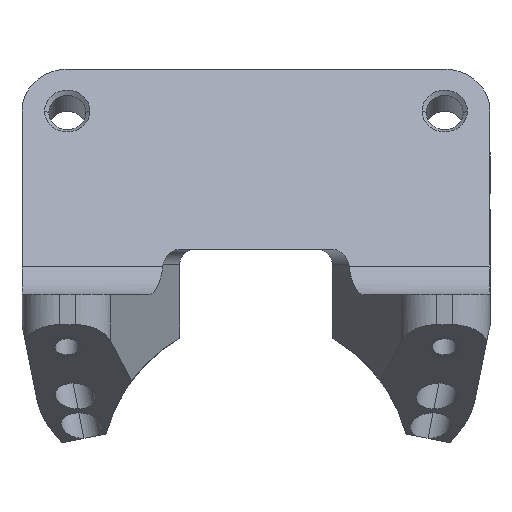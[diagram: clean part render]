
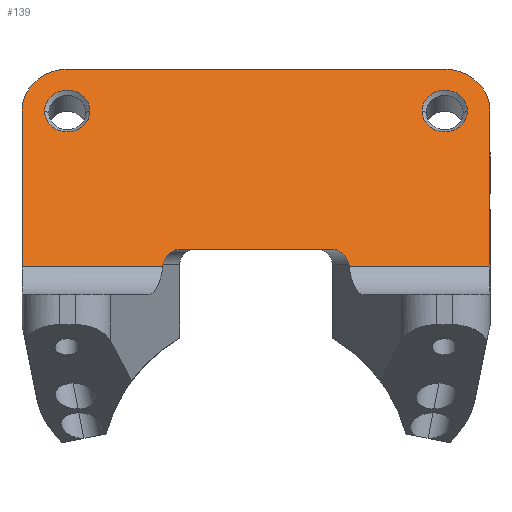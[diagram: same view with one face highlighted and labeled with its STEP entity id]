
A CAD part, top view. The second image highlights one B-rep face of the part: STEP entity #139.
In plain terms, the highlighted planar face has unit normal (0, 0.383, 0.924).
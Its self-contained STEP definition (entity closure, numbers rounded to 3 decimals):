
#61=FACE_BOUND('',#311,.F.);
#62=FACE_BOUND('',#312,.F.);
#139=ADVANCED_FACE('',(#61,#62,#224),#834,.T.);
#224=FACE_OUTER_BOUND('',#313,.F.);
#311=EDGE_LOOP('',(#515,#516));
#312=EDGE_LOOP('',(#517,#518));
#313=EDGE_LOOP('',(#519,#520,#521,#522,#523,#524,#525,#526,#527,#528,#529,
#530));
#515=ORIENTED_EDGE('',*,*,#1150,.T.);
#516=ORIENTED_EDGE('',*,*,#1151,.T.);
#517=ORIENTED_EDGE('',*,*,#1154,.T.);
#518=ORIENTED_EDGE('',*,*,#1155,.T.);
#519=ORIENTED_EDGE('',*,*,#1146,.T.);
#520=ORIENTED_EDGE('',*,*,#1172,.T.);
#521=ORIENTED_EDGE('',*,*,#1171,.T.);
#522=ORIENTED_EDGE('',*,*,#1093,.T.);
#523=ORIENTED_EDGE('',*,*,#1088,.F.);
#524=ORIENTED_EDGE('',*,*,#1174,.F.);
#525=ORIENTED_EDGE('',*,*,#1086,.F.);
#526=ORIENTED_EDGE('',*,*,#1094,.T.);
#527=ORIENTED_EDGE('',*,*,#1173,.T.);
#528=ORIENTED_EDGE('',*,*,#1170,.T.);
#529=ORIENTED_EDGE('',*,*,#1144,.F.);
#530=ORIENTED_EDGE('',*,*,#1169,.T.);
#834=PLANE('',#1791);
#984=B_SPLINE_CURVE_WITH_KNOTS('',3,(#2567,#2568,#2569,#2570,#2571,#2572,#2573,
#2574,#2575,#2576),.UNSPECIFIED.,.F.,.F.,(4,1,1,1,1,1,1,4),(0.,
0.166,0.285,0.428,0.571,
0.714,0.833,1.),.UNSPECIFIED.);
#986=B_SPLINE_CURVE_WITH_KNOTS('',3,(#2586,#2587,#2588,#2589,#2590,#2591,#2592,
#2593,#2594,#2595),.UNSPECIFIED.,.F.,.F.,(4,1,1,1,1,1,1,4),(0.,
0.166,0.285,0.428,0.571,
0.714,0.833,1.),.UNSPECIFIED.);
#1019=CIRCLE('',#1703,6.);
#1021=CIRCLE('',#1705,6.);
#1040=CIRCLE('',#1724,3.);
#1041=CIRCLE('',#1725,3.);
#1044=CIRCLE('',#1728,3.);
#1045=CIRCLE('',#1729,3.);
#1086=EDGE_CURVE('',#1671,#1669,#1019,.T.);
#1088=EDGE_CURVE('',#1666,#1665,#1021,.T.);
#1093=EDGE_CURVE('',#1660,#1665,#1308,.T.);
#1094=EDGE_CURVE('',#1671,#1659,#1309,.T.);
#1144=EDGE_CURVE('',#1606,#1604,#984,.T.);
#1146=EDGE_CURVE('',#1609,#1607,#986,.T.);
#1150=EDGE_CURVE('',#1600,#1599,#1040,.T.);
#1151=EDGE_CURVE('',#1599,#1600,#1041,.T.);
#1154=EDGE_CURVE('',#1596,#1595,#1044,.T.);
#1155=EDGE_CURVE('',#1595,#1596,#1045,.T.);
#1169=EDGE_CURVE('',#1606,#1609,#1338,.T.);
#1170=EDGE_CURVE('',#1582,#1604,#1339,.T.);
#1171=EDGE_CURVE('',#1581,#1660,#1340,.T.);
#1172=EDGE_CURVE('',#1607,#1581,#1341,.T.);
#1173=EDGE_CURVE('',#1659,#1582,#1342,.T.);
#1174=EDGE_CURVE('',#1669,#1666,#1343,.T.);
#1308=LINE('',#2433,#1421);
#1309=LINE('',#2434,#1422);
#1338=LINE('',#2698,#1451);
#1339=LINE('',#2699,#1452);
#1340=LINE('',#2700,#1453);
#1341=LINE('',#2701,#1454);
#1342=LINE('',#2702,#1455);
#1343=LINE('',#2703,#1456);
#1421=VECTOR('',#1872,22.353);
#1422=VECTOR('',#1873,22.353);
#1451=VECTOR('',#1958,19.797);
#1452=VECTOR('',#1959,0.381);
#1453=VECTOR('',#1960,18.655);
#1454=VECTOR('',#1961,0.381);
#1455=VECTOR('',#1962,18.655);
#1456=VECTOR('',#1963,50.);
#1581=VERTEX_POINT('',#2332);
#1582=VERTEX_POINT('',#2333);
#1595=VERTEX_POINT('',#2346);
#1596=VERTEX_POINT('',#2347);
#1599=VERTEX_POINT('',#2350);
#1600=VERTEX_POINT('',#2351);
#1604=VERTEX_POINT('',#2355);
#1606=VERTEX_POINT('',#2357);
#1607=VERTEX_POINT('',#2358);
#1609=VERTEX_POINT('',#2360);
#1659=VERTEX_POINT('',#2410);
#1660=VERTEX_POINT('',#2411);
#1665=VERTEX_POINT('',#2416);
#1666=VERTEX_POINT('',#2417);
#1669=VERTEX_POINT('',#2420);
#1671=VERTEX_POINT('',#2422);
#1703=AXIS2_PLACEMENT_3D('',#2426,#1862,#1863);
#1705=AXIS2_PLACEMENT_3D('',#2428,#1866,#1867);
#1724=AXIS2_PLACEMENT_3D('',#2607,#1937,#1938);
#1725=AXIS2_PLACEMENT_3D('',#2608,#1939,#1940);
#1728=AXIS2_PLACEMENT_3D('',#2611,#1945,#1946);
#1729=AXIS2_PLACEMENT_3D('',#2612,#1947,#1948);
#1791=AXIS2_PLACEMENT_3D('',#3112,#2150,#2151);
#1862=DIRECTION('',(0.,0.383,0.924));
#1863=DIRECTION('',(1.,0.,0.));
#1866=DIRECTION('',(0.,0.383,0.924));
#1867=DIRECTION('',(0.,0.924,-0.383));
#1872=DIRECTION('',(0.,0.924,-0.383));
#1873=DIRECTION('',(0.,-0.924,0.383));
#1937=DIRECTION('',(0.,0.383,0.924));
#1938=DIRECTION('',(1.,0.,0.));
#1939=DIRECTION('',(0.,0.383,0.924));
#1940=DIRECTION('',(-1.,0.,0.));
#1945=DIRECTION('',(0.,0.383,0.924));
#1946=DIRECTION('',(1.,0.,0.));
#1947=DIRECTION('',(0.,0.383,0.924));
#1948=DIRECTION('',(-1.,0.,0.));
#1958=DIRECTION('',(-1.,0.,0.));
#1959=DIRECTION('',(-0.13,0.916,-0.379));
#1960=DIRECTION('',(-1.,0.,0.));
#1961=DIRECTION('',(-0.13,-0.916,0.379));
#1962=DIRECTION('',(-1.,0.,0.));
#1963=DIRECTION('',(-1.,0.,0.));
#2150=DIRECTION('',(0.,0.383,0.924));
#2151=DIRECTION('',(0.,-0.924,0.383));
#2332=CARTESIAN_POINT('',(-12.345,137.274,62.003));
#2333=CARTESIAN_POINT('',(12.345,137.274,62.003));
#2346=CARTESIAN_POINT('',(-28.,157.926,53.448));
#2347=CARTESIAN_POINT('',(-22.,157.926,53.448));
#2350=CARTESIAN_POINT('',(22.,157.926,53.448));
#2351=CARTESIAN_POINT('',(28.,157.926,53.448));
#2355=CARTESIAN_POINT('',(12.296,137.623,61.858));
#2357=CARTESIAN_POINT('',(9.898,139.623,61.029));
#2358=CARTESIAN_POINT('',(-12.296,137.623,61.858));
#2360=CARTESIAN_POINT('',(-9.898,139.623,61.029));
#2410=CARTESIAN_POINT('',(31.,137.274,62.003));
#2411=CARTESIAN_POINT('',(-31.,137.274,62.003));
#2416=CARTESIAN_POINT('',(-31.,157.926,53.448));
#2417=CARTESIAN_POINT('',(-25.,163.469,51.152));
#2420=CARTESIAN_POINT('',(25.,163.469,51.152));
#2422=CARTESIAN_POINT('',(31.,157.926,53.448));
#2426=CARTESIAN_POINT('',(25.,157.926,53.448));
#2428=CARTESIAN_POINT('',(-25.,157.926,53.448));
#2433=CARTESIAN_POINT('',(-31.,137.274,62.003));
#2434=CARTESIAN_POINT('',(31.,157.926,53.448));
#2567=CARTESIAN_POINT('',(9.898,139.623,61.029));
#2568=CARTESIAN_POINT('',(10.093,139.623,61.029));
#2569=CARTESIAN_POINT('',(10.426,139.58,61.047));
#2570=CARTESIAN_POINT('',(10.898,139.416,61.115));
#2571=CARTESIAN_POINT('',(11.305,139.188,61.21));
#2572=CARTESIAN_POINT('',(11.677,138.873,61.34));
#2573=CARTESIAN_POINT('',(11.961,138.52,61.486));
#2574=CARTESIAN_POINT('',(12.185,138.103,61.659));
#2575=CARTESIAN_POINT('',(12.271,137.802,61.784));
#2576=CARTESIAN_POINT('',(12.296,137.623,61.858));
#2586=CARTESIAN_POINT('',(-9.898,139.623,61.029));
#2587=CARTESIAN_POINT('',(-10.093,139.623,61.029));
#2588=CARTESIAN_POINT('',(-10.426,139.58,61.047));
#2589=CARTESIAN_POINT('',(-10.898,139.416,61.115));
#2590=CARTESIAN_POINT('',(-11.305,139.188,61.21));
#2591=CARTESIAN_POINT('',(-11.677,138.873,61.34));
#2592=CARTESIAN_POINT('',(-11.961,138.52,61.486));
#2593=CARTESIAN_POINT('',(-12.185,138.103,61.659));
#2594=CARTESIAN_POINT('',(-12.271,137.802,61.784));
#2595=CARTESIAN_POINT('',(-12.296,137.623,61.858));
#2607=CARTESIAN_POINT('',(25.,157.926,53.448));
#2608=CARTESIAN_POINT('',(25.,157.926,53.448));
#2611=CARTESIAN_POINT('',(-25.,157.926,53.448));
#2612=CARTESIAN_POINT('',(-25.,157.926,53.448));
#2698=CARTESIAN_POINT('',(9.898,139.623,61.029));
#2699=CARTESIAN_POINT('',(12.345,137.274,62.003));
#2700=CARTESIAN_POINT('',(-12.345,137.274,62.003));
#2701=CARTESIAN_POINT('',(-12.296,137.623,61.858));
#2702=CARTESIAN_POINT('',(31.,137.274,62.003));
#2703=CARTESIAN_POINT('',(25.,163.469,51.152));
#3112=CARTESIAN_POINT('',(-31.62,164.042,50.915));
